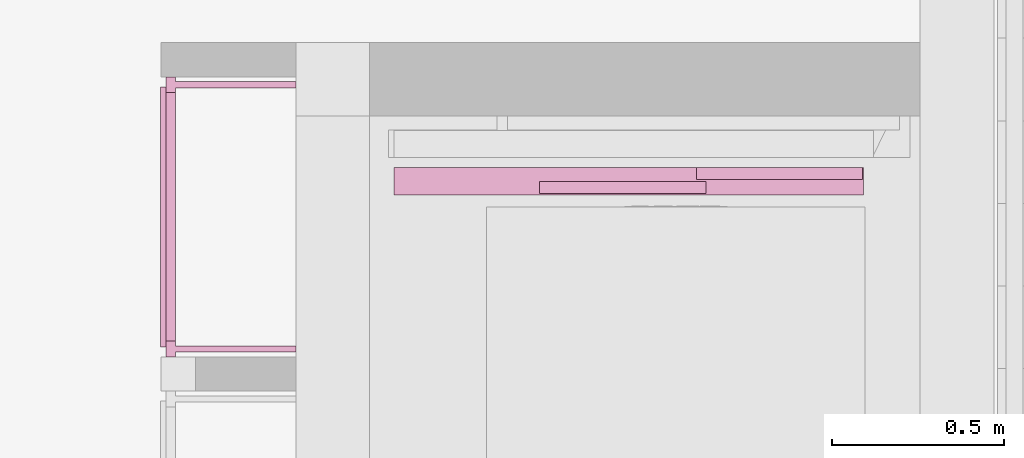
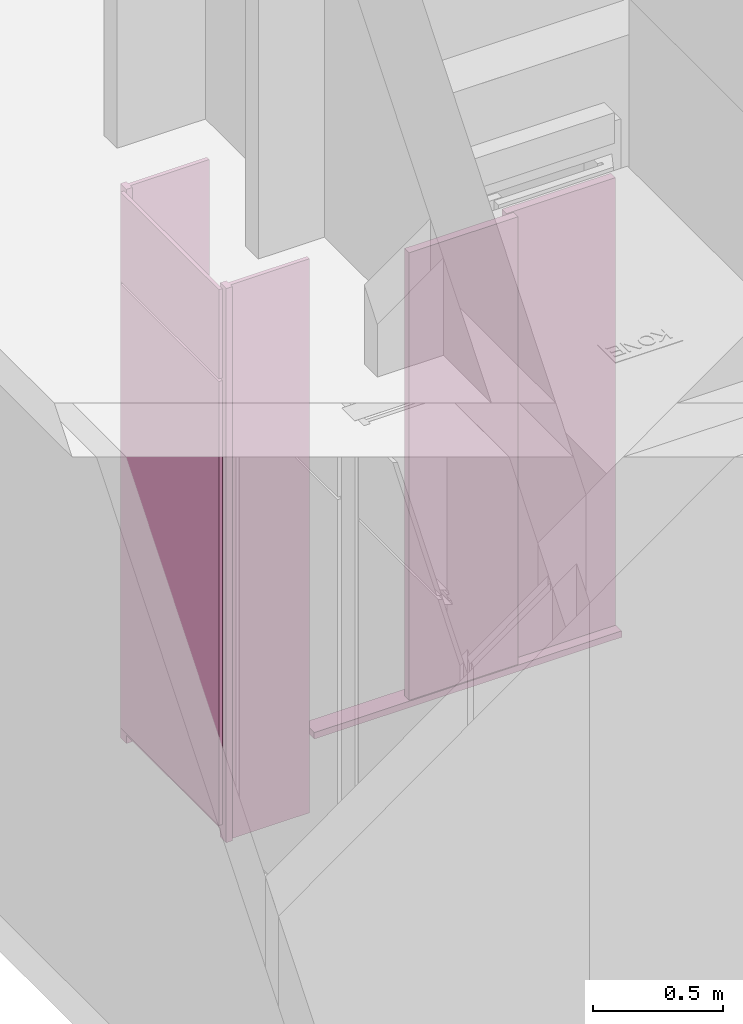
# One storey, part 101 of 117: 1 furnishing, 1 transport element.
"""IFC2X3 building model written with IfcOpenShell, lengths in millimetres."""

from ifc_helpers import new_model, entity, si_unit, converted_unit, derived_unit, money_unit, direction, frame, origin_with_axes, place, context, subcontext, project, spatial, faceted_brep, material, type_object, element, save


model = new_model("IFC2X3")

# Units and contexts
model_context = context("Model", 3, precision=0.01, world=origin_with_axes(), true_north=direction((0.0, 1.0)))
body_context = subcontext(model_context, "Body", "Model", "MODEL_VIEW")
ifc_project = project(units=[si_unit("LENGTHUNIT", "METRE", prefix="MILLI"), si_unit("AREAUNIT", "SQUARE_METRE"), si_unit("VOLUMEUNIT", "CUBIC_METRE"), converted_unit("PLANEANGLEUNIT", "DEGREE", entity("IfcPlaneAngleMeasure", 0.0174532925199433), si_unit("PLANEANGLEUNIT", "RADIAN"), dimensions=[0, 0, 0, 0, 0, 0, 0]), money_unit("EUR"), converted_unit("TIMEUNIT", "Year", entity("IfcTimeMeasure", 31557600.0), si_unit("TIMEUNIT", "SECOND"), dimensions=[0, 0, 1, 0, 0, 0, 0]), si_unit("MASSUNIT", "GRAM", prefix="KILO"), si_unit("THERMODYNAMICTEMPERATUREUNIT", "DEGREE_CELSIUS"), si_unit("LUMINOUSINTENSITYUNIT", "LUMEN"), si_unit("ENERGYUNIT", "JOULE", prefix="MEGA"), derived_unit("THERMALCONDUCTANCEUNIT", [(si_unit("POWERUNIT", "WATT"), 1), (si_unit("LENGTHUNIT", "METRE"), -1), (si_unit("THERMODYNAMICTEMPERATUREUNIT", "KELVIN"), -1)]), derived_unit("SPECIFICHEATCAPACITYUNIT", [(si_unit("ENERGYUNIT", "JOULE"), 1), (si_unit("MASSUNIT", "GRAM", prefix="KILO"), -1), (si_unit("THERMODYNAMICTEMPERATUREUNIT", "KELVIN"), -1)]), derived_unit("MASSDENSITYUNIT", [(si_unit("MASSUNIT", "GRAM", prefix="KILO"), 1), (si_unit("VOLUMEUNIT", "CUBIC_METRE"), -1)])], contexts=[model_context])

# Site, building, storey
site_placement = place(None, origin_with_axes())
site = spatial("IfcSite", under=ifc_project, at=site_placement, Name="Site", CompositionType="ELEMENT")
building_placement = place(site_placement, origin_with_axes())
building = spatial("IfcBuilding", under=site, at=building_placement, Name="Naam gebouw", CompositionType="ELEMENT")
storey_placement = place(building_placement, frame((0.0, 0.0, 4150.0), z_axis=(0.0, 0.0, 1.0), x_axis=(1.0, 0.0, 0.0)))
storey = spatial("IfcBuildingStorey", under=building, at=storey_placement, Name="1e verdieping N", CompositionType="ELEMENT", Elevation=4150.0)

# Furnishing
ifc_material_1 = material(Name="houtfineer")
furniture_type = type_object("IfcFurnitureType", Name="NLRS_60_CASE_werkkast_algemeen_WID:meterkast_gen_lxbxh 814x350x2600", AssemblyPlace="NOTDEFINED")
furnishing_placement = place(storey_placement, frame((31684.00000006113, 36505.21209987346, -3770.00000000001), z_axis=(0.0, 0.0, 1.0), x_axis=(0.0, 1.0, 0.0)))
element("IfcFurnishingElement", 1, at=furnishing_placement, inside=storey, type_object=furniture_type, material=ifc_material_1, Name="NLRS_60_CASE_werkkast_algemeen_WID:meterkast_gen_lxbxh 814x350x2600", context=body_context, shape_type="Brep", body=[
    faceted_brep([(-373.29967356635, 359.0000000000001, 0.0), (-391.2961033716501, 359.0000000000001, 0.0), (-391.2961033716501, 359.0000000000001, 2600.0), (-373.29967356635, 359.0000000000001, 2600.0), (-373.29967356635, 0.0, 0.0), (-391.2961033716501, 0.0, 0.0), (-391.2961033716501, 0.0, 2600.0), (-373.29967356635, 0.0, 2600.0)], [[[0, 1, 2, 3]], [[0, 4, 5, 1]], [[1, 5, 6, 2]], [[3, 2, 6, 7]], [[4, 0, 3, 7]], [[5, 4, 7, 6]]]),
    faceted_brep([(379.70032643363, 377.0000000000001, 2164.0), (379.70032643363, 393.0000000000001, 2164.0), (379.70032643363, 393.0000000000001, 2583.0), (379.70032643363, 377.0000000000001, 2583.0), (-376.2996735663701, 377.0000000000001, 2164.0), (-376.2996735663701, 393.0000000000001, 2164.0), (-376.2996735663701, 393.0000000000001, 2583.0), (-376.2996735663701, 377.0000000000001, 2583.0)], [[[0, 1, 2, 3]], [[0, 4, 5, 1]], [[1, 5, 6, 2]], [[3, 2, 6, 7]], [[4, 0, 3, 7]], [[5, 4, 7, 6]]]),
    faceted_brep([(394.6985413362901, 0.0, 0.0), (394.6985413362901, 359.0000000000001, 0.0), (394.6985413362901, 359.0000000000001, 2600.0), (394.6985413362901, 0.0, 2600.0), (376.70211153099, 0.0, 0.0), (376.70211153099, 359.0000000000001, 0.0), (376.70211153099, 359.0000000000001, 2600.0), (376.70211153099, 0.0, 2600.0)], [[[0, 1, 2, 3]], [[0, 4, 5, 1]], [[1, 5, 6, 2]], [[3, 2, 6, 7]], [[4, 0, 3, 7]], [[5, 4, 7, 6]]]),
    faceted_brep([(408.70032643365, 377.0000000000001, 0.0), (362.70032643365, 377.0000000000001, 0.0), (362.70032643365, 377.0000000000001, 2600.0), (408.70032643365, 377.0000000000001, 2600.0), (408.70032643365, 350.0000000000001, 0.0), (394.6985413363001, 350.0000000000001, 0.0), (394.6985413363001, 359.0000000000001, 0.0), (376.702111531, 359.0000000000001, 0.0), (376.702111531, 350.0000000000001, 0.0), (362.70032643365, 350.0000000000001, 0.0), (362.70032643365, 350.0000000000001, 2600.0), (376.702111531, 350.0000000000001, 2600.0), (376.702111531, 359.0000000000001, 2600.0), (394.6985413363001, 359.0000000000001, 2600.0), (394.6985413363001, 350.0000000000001, 2600.0), (408.70032643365, 350.0000000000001, 2600.0)], [[[0, 1, 2, 3]], [[0, 4, 5, 6, 7, 8, 9, 1]], [[1, 9, 10, 2]], [[3, 2, 10, 11, 12, 13, 14, 15]], [[4, 0, 3, 15]], [[5, 4, 15, 14]], [[6, 5, 14, 13]], [[7, 6, 13, 12]], [[8, 7, 12, 11]], [[9, 8, 11, 10]]]),
    faceted_brep([(-359.29967356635, 377.0000000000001, 0.0), (-405.2996735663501, 377.0000000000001, 0.0), (-405.2996735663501, 377.0000000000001, 2600.0), (-359.29967356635, 377.0000000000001, 2600.0), (-359.29967356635, 350.0000000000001, 0.0), (-373.3014586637, 350.0000000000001, 0.0), (-373.3014586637, 359.0000000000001, 0.0), (-391.297888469, 359.0000000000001, 0.0), (-391.297888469, 350.0000000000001, 0.0), (-405.2996735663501, 350.0000000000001, 0.0), (-405.2996735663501, 350.0000000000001, 2600.0), (-391.297888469, 350.0000000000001, 2600.0), (-391.297888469, 359.0000000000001, 2600.0), (-373.3014586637, 359.0000000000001, 2600.0), (-373.3014586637, 350.0000000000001, 2600.0), (-359.29967356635, 350.0000000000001, 2600.0)], [[[0, 1, 2, 3]], [[0, 4, 5, 6, 7, 8, 9, 1]], [[1, 9, 10, 2]], [[3, 2, 10, 11, 12, 13, 14, 15]], [[4, 0, 3, 15]], [[5, 4, 15, 14]], [[6, 5, 14, 13]], [[7, 6, 13, 12]], [[8, 7, 12, 11]], [[9, 8, 11, 10]]]),
    faceted_brep([(379.70032643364, 377.0000000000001, 69.0), (379.70032643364, 393.0000000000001, 69.0), (379.70032643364, 393.0000000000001, 2152.0), (379.70032643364, 377.0000000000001, 2152.0), (-376.2996735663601, 377.0000000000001, 69.0), (-376.2996735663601, 393.0000000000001, 69.0), (-376.2996735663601, 393.0000000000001, 2152.0), (-376.2996735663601, 377.0000000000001, 2152.0)], [[[0, 1, 2, 3]], [[0, 4, 5, 1]], [[1, 5, 6, 2]], [[3, 2, 6, 7]], [[4, 0, 3, 7]], [[5, 4, 7, 6]]]),
    faceted_brep([(-359.29967356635, 377.0000000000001, 2135.0), (-359.29967356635, 377.0000000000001, 2181.0), (362.7003264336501, 377.0000000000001, 2181.0), (362.7003264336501, 377.0000000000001, 2135.0), (-359.29967356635, 350.0000000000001, 2135.0), (-359.29967356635, 350.0000000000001, 2149.00178509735), (-359.29967356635, 359.0000000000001, 2149.00178509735), (-359.29967356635, 359.0000000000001, 2166.99821490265), (-359.29967356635, 350.0000000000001, 2166.99821490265), (-359.29967356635, 350.0000000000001, 2181.0), (362.7003264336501, 350.0000000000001, 2181.0), (362.7003264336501, 350.0000000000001, 2166.99821490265), (362.7003264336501, 359.0000000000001, 2166.99821490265), (362.7003264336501, 359.0000000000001, 2149.00178509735), (362.7003264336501, 350.0000000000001, 2149.00178509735), (362.7003264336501, 350.0000000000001, 2135.0)], [[[0, 1, 2, 3]], [[0, 4, 5, 6, 7, 8, 9, 1]], [[1, 9, 10, 2]], [[3, 2, 10, 11, 12, 13, 14, 15]], [[4, 0, 3, 15]], [[5, 4, 15, 14]], [[6, 5, 14, 13]], [[7, 6, 13, 12]], [[8, 7, 12, 11]], [[9, 8, 11, 10]]]),
    faceted_brep([(-359.29967356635, 377.0000000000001, 40.0), (-359.29967356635, 377.0000000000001, 86.0), (362.7003264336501, 377.0000000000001, 86.0), (362.7003264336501, 377.0000000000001, 40.0), (-359.29967356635, 350.0000000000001, 40.0), (-359.29967356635, 350.0000000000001, 54.00178509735), (-359.29967356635, 359.0000000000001, 54.00178509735), (-359.29967356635, 359.0000000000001, 71.99821490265), (-359.29967356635, 350.0000000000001, 71.99821490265), (-359.29967356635, 350.0000000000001, 86.0), (362.7003264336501, 350.0000000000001, 86.0), (362.7003264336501, 350.0000000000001, 71.99821490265), (362.7003264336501, 359.0000000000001, 71.99821490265), (362.7003264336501, 359.0000000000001, 54.00178509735), (362.7003264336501, 350.0000000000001, 54.00178509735), (362.7003264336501, 350.0000000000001, 40.0)], [[[0, 1, 2, 3]], [[0, 4, 5, 6, 7, 8, 9, 1]], [[1, 9, 10, 2]], [[3, 2, 10, 11, 12, 13, 14, 15]], [[4, 0, 3, 15]], [[5, 4, 15, 14]], [[6, 5, 14, 13]], [[7, 6, 13, 12]], [[8, 7, 12, 11]], [[9, 8, 11, 10]]]),
])

# Transport element
ifc_material_2 = material(Name="Default")
transport_element_type = type_object("IfcTransportElementType", Name="KONE_Car_Door_2R_P12:KONE_Car_Door_2R_P12", PredefinedType="ELEVATOR")
transport_element_placement = place(storey_placement, frame((32869.0000000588, 36564.46860416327, -3770.00000000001), z_axis=(0.0, 0.0, 1.0), x_axis=(-1.0, 0.0, 0.0)))
element("IfcTransportElement", 2, at=transport_element_placement, inside=storey, type_object=transport_element_type, material=ifc_material_2, Name="KONE_Car_Door_2R_P12:KONE_Car_Door_2R_P12", ObjectType="ELEVATOR", context=body_context, shape_type="Brep", body=[
    faceted_brep([(-463.0, -85.44382209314, 0.0), (20.50000000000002, -85.44382209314, 0.0), (20.50000000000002, -85.44382209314, 2100.0), (-463.0, -85.44382209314, 2100.0), (-463.0, -50.44382209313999, 0.0), (20.50000000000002, -50.44382209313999, 0.0), (20.50000000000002, -50.44382209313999, 2100.0), (-463.0, -50.44382209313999, 2100.0)], [[[0, 1, 2, 3]], [[0, 4, 5, 1]], [[1, 5, 6, 2]], [[3, 2, 6, 7]], [[4, 0, 3, 7]], [[5, 4, 7, 6]]]),
    faceted_brep([(-7.000000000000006, -45.44382209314, 0.0), (476.5000000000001, -45.44382209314, 0.0), (476.5000000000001, -45.44382209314, 2100.0), (-7.000000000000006, -45.44382209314, 2100.0), (-7.000000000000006, -10.44382209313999, 0.0), (476.5000000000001, -10.44382209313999, 0.0), (476.5000000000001, -10.44382209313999, 2100.0), (-7.000000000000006, -10.44382209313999, 2100.0)], [[[0, 1, 2, 3]], [[0, 4, 5, 1]], [[1, 5, 6, 2]], [[3, 2, 6, 7]], [[4, 0, 3, 7]], [[5, 4, 7, 6]]]),
    faceted_brep([(900.0, -85.44382209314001, -30.0), (900.0, -5.44382209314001, -30.0), (900.0, -5.44382209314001, 0.0), (900.0, -85.44382209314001, 0.0), (-464.9999999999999, -85.44382209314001, -30.0), (-464.9999999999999, -5.44382209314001, -30.0), (-464.9999999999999, -5.44382209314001, 0.0), (-464.9999999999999, -85.44382209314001, 0.0)], [[[0, 1, 2, 3]], [[0, 4, 5, 1]], [[1, 5, 6, 2]], [[3, 2, 6, 7]], [[4, 0, 3, 7]], [[5, 4, 7, 6]]]),
])

save(model, "model.ifc")
